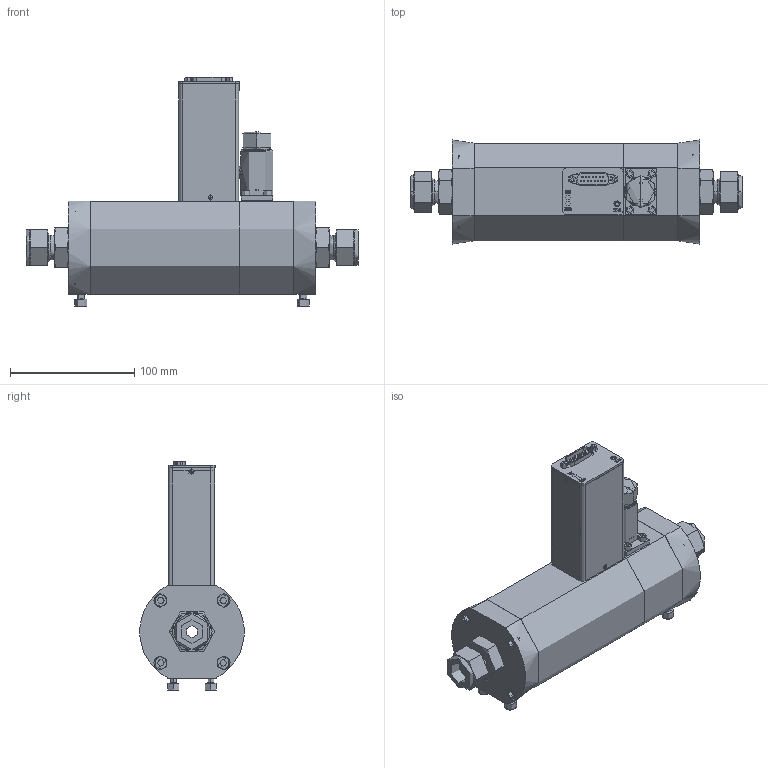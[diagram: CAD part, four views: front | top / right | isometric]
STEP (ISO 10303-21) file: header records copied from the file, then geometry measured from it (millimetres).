
FILE_DESCRIPTION (( 'STEP AP214' ), '1' );
FILE_NAME ('SLA5853-S-2E-2-L-REVB.STEP', '2023-03-09T14:13:35', ( '' ), ( '' ), 'SwSTEP 2.0', 'SolidWorks 2020', '' );
FILE_SCHEMA (( 'AUTOMOTIVE_DESIGN' ));
Length unit declared in the file: inch
Products named in the file (1): SLA5853-S-2E-2-L-REVB
Bounding box: 266.87 x 83.7 x 184.34 mm (x, y, z)
Topology: 72 solids, 78 shells, 1534 faces, 3710 edges, 2392 vertices
Faces by surface type: plane 705, cylinder 471, cone 241, bspline 117
Full cylindrical faces by diameter (mm): 21.844 x2
Entity records: 68794 total; most frequent: CARTESIAN_POINT 13465, DIRECTION 7436, ORIENTED_EDGE 7384, EDGE_CURVE 3692, AXIS2_PLACEMENT_3D 2732, VERTEX_POINT 2390, VECTOR 1972, LINE 1972
